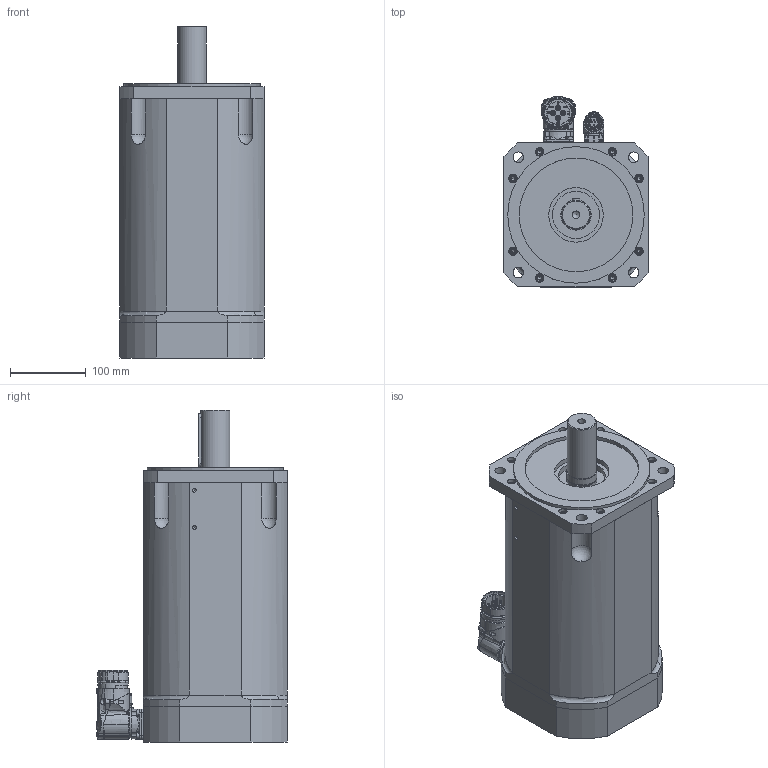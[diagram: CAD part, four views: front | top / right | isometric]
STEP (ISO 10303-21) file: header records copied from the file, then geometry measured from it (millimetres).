
FILE_DESCRIPTION(/* description */ (''),/* implementation_level */ '2;1');
FILE_NAME(/* name */ 'C:\Users\Public\Documents\Autodesk\Inventor LT 2014\Workspace\Motori Sito WEB\TG_6\STEP_DSM5_6x\DSM5_64_x099.stp',/* time_stamp */ '2021-03-31T14:24:53+02:00',/* author */ ('marcor'),/* organization */ (''),/* preprocessor_version */ 'ST-DEVELOPER v15.2',/* originating_system */ 'Autodesk Inventor LT ',/* authorisation */ '');
FILE_SCHEMA (('AUTOMOTIVE_DESIGN { 1 0 10303 214 3 1 1 }'));
Products named in the file (1): DSM5_64_x099
Bounding box: 190 x 251.55 x 438 mm (x, y, z)
Volume: 11348197.2 mm3; surface area: 574206.9 mm2
Topology: 24 solids, 31 shells, 1840 faces, 4748 edges, 3104 vertices
Faces by surface type: plane 798, cylinder 393, cone 388, bspline 137, torus 103, sphere 21
Full cylindrical faces by diameter (mm): 1.2 x12, 2 x2, 2.224 x4, 2.5 x4, 2.88 x4, 3.26 x4, 3.6 x5, 4 x5, 4.5 x1, 4.8 x4, 4.917 x24, 5.4 x1, 5.5 x1, 5.9 x1, 6 x20, 6.5 x20, 7 x4, 8 x3, 8.5 x1, 10 x20, 10.106 x1, 11 x20, 14 x4, 15.2 x1, 17.4 x2, 18 x1, 20 x1, 21.15 x2, 21.653 x1, 24.3 x1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
Entity records: 61110 total; most frequent: CARTESIAN_POINT 18589, ORIENTED_EDGE 8310, DIRECTION 8038, EDGE_CURVE 4155, AXIS2_PLACEMENT_3D 3189, VERTEX_POINT 2947, EDGE_LOOP 2472, ADVANCED_FACE 1840
